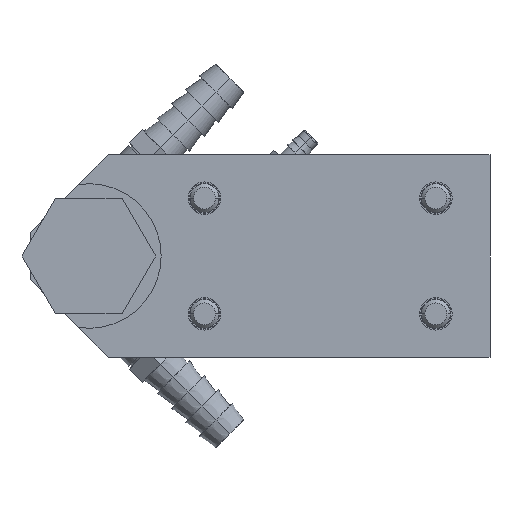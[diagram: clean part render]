
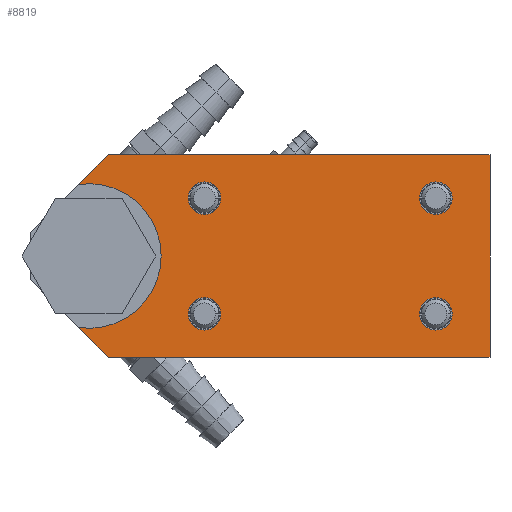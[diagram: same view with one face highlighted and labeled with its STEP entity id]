
A CAD part, left-side view. The second image highlights one B-rep face of the part: STEP entity #8819.
In plain terms, the highlighted planar face has unit normal (-1, 0, 0).
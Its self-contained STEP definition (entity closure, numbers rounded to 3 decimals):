
#8424=CARTESIAN_POINT('',(-3.313,-1.141,0.5));
#8425=VERTEX_POINT('',#8424);
#8434=CARTESIAN_POINT('',(-3.313,-0.859,0.5));
#8435=VERTEX_POINT('',#8434);
#8436=CARTESIAN_POINT('',(-3.313,-1.,0.5));
#8437=DIRECTION('',(1.0,0.0,0.0));
#8438=DIRECTION('',(0.0,-1.0,0.0));
#8439=AXIS2_PLACEMENT_3D('',#8436,#8437,#8438);
#8440=CIRCLE('',#8439,0.141);
#8441=EDGE_CURVE('',#8435,#8425,#8440,.T.);
#8466=CARTESIAN_POINT('',(-3.313,-3.141,0.5));
#8467=VERTEX_POINT('',#8466);
#8476=CARTESIAN_POINT('',(-3.313,-2.859,0.5));
#8477=VERTEX_POINT('',#8476);
#8478=CARTESIAN_POINT('',(-3.313,-3.0,0.5));
#8479=DIRECTION('',(1.0,0.0,0.0));
#8480=DIRECTION('',(0.0,-1.0,0.0));
#8481=AXIS2_PLACEMENT_3D('',#8478,#8479,#8480);
#8482=CIRCLE('',#8481,0.141);
#8483=EDGE_CURVE('',#8477,#8467,#8482,.T.);
#8508=CARTESIAN_POINT('',(-3.313,-3.141,-0.5));
#8509=VERTEX_POINT('',#8508);
#8518=CARTESIAN_POINT('',(-3.313,-2.859,-0.5));
#8519=VERTEX_POINT('',#8518);
#8520=CARTESIAN_POINT('',(-3.313,-3.0,-0.5));
#8521=DIRECTION('',(1.0,0.0,0.0));
#8522=DIRECTION('',(0.0,-1.0,0.0));
#8523=AXIS2_PLACEMENT_3D('',#8520,#8521,#8522);
#8524=CIRCLE('',#8523,0.141);
#8525=EDGE_CURVE('',#8519,#8509,#8524,.T.);
#8550=CARTESIAN_POINT('',(-3.313,-1.141,-0.5));
#8551=VERTEX_POINT('',#8550);
#8560=CARTESIAN_POINT('',(-3.313,-0.859,-0.5));
#8561=VERTEX_POINT('',#8560);
#8562=CARTESIAN_POINT('',(-3.313,-1.,-0.5));
#8563=DIRECTION('',(1.0,0.0,0.0));
#8564=DIRECTION('',(0.0,-1.0,0.0));
#8565=AXIS2_PLACEMENT_3D('',#8562,#8563,#8564);
#8566=CIRCLE('',#8565,0.141);
#8567=EDGE_CURVE('',#8561,#8551,#8566,.T.);
#8592=CARTESIAN_POINT('',(-3.313,0.088,-0.619));
#8593=VERTEX_POINT('',#8592);
#8610=CARTESIAN_POINT('',(-3.313,-0.168,-0.875));
#8611=VERTEX_POINT('',#8610);
#8618=CARTESIAN_POINT('',(-3.313,-0.168,-0.875));
#8619=DIRECTION('',(0.0,0.707,0.707));
#8620=VECTOR('',#8619,0.362);
#8621=LINE('',#8618,#8620);
#8622=EDGE_CURVE('',#8611,#8593,#8621,.T.);
#8721=CARTESIAN_POINT('',(-3.313,0.088,0.619));
#8722=VERTEX_POINT('',#8721);
#8723=CARTESIAN_POINT('',(-3.313,0.0,0.));
#8724=DIRECTION('',(1.0,0.0,0.0));
#8725=DIRECTION('',(0.0,-1.0,0.0));
#8726=AXIS2_PLACEMENT_3D('',#8723,#8724,#8725);
#8727=CIRCLE('',#8726,0.625);
#8728=EDGE_CURVE('',#8722,#8593,#8727,.T.);
#8740=CARTESIAN_POINT('',(-3.313,-1.597,0.));
#8741=DIRECTION('',(1.0,0.0,0.0));
#8742=DIRECTION('',(0.0,-1.0,0.0));
#8743=AXIS2_PLACEMENT_3D('',#8740,#8741,#8742);
#8744=PLANE('',#8743);
#8745=ORIENTED_EDGE('',*,*,#8622,.F.);
#8746=CARTESIAN_POINT('',(-3.313,-3.467,-0.875));
#8747=VERTEX_POINT('',#8746);
#8748=CARTESIAN_POINT('',(-3.313,-3.467,-0.875));
#8749=DIRECTION('',(0.0,1.0,0.0));
#8750=VECTOR('',#8749,3.3);
#8751=LINE('',#8748,#8750);
#8752=EDGE_CURVE('',#8747,#8611,#8751,.T.);
#8753=ORIENTED_EDGE('',*,*,#8752,.F.);
#8754=CARTESIAN_POINT('',(-3.313,-3.467,0.875));
#8755=VERTEX_POINT('',#8754);
#8756=CARTESIAN_POINT('',(-3.313,-3.467,0.875));
#8757=DIRECTION('',(0.0,0.0,-1.0));
#8758=VECTOR('',#8757,1.75);
#8759=LINE('',#8756,#8758);
#8760=EDGE_CURVE('',#8755,#8747,#8759,.T.);
#8761=ORIENTED_EDGE('',*,*,#8760,.F.);
#8762=CARTESIAN_POINT('',(-3.313,-0.168,0.875));
#8763=VERTEX_POINT('',#8762);
#8764=CARTESIAN_POINT('',(-3.313,-0.168,0.875));
#8765=DIRECTION('',(0.0,-1.0,0.0));
#8766=VECTOR('',#8765,3.3);
#8767=LINE('',#8764,#8766);
#8768=EDGE_CURVE('',#8763,#8755,#8767,.T.);
#8769=ORIENTED_EDGE('',*,*,#8768,.F.);
#8770=CARTESIAN_POINT('',(-3.313,0.088,0.619));
#8771=DIRECTION('',(0.0,-0.707,0.707));
#8772=VECTOR('',#8771,0.362);
#8773=LINE('',#8770,#8772);
#8774=EDGE_CURVE('',#8722,#8763,#8773,.T.);
#8775=ORIENTED_EDGE('',*,*,#8774,.F.);
#8776=ORIENTED_EDGE('',*,*,#8728,.T.);
#8777=EDGE_LOOP('',(#8745,#8753,#8761,#8769,#8775,#8776));
#8778=FACE_OUTER_BOUND('',#8777,.T.);
#8779=ORIENTED_EDGE('',*,*,#8567,.T.);
#8780=CARTESIAN_POINT('',(-3.313,-1.,-0.5));
#8781=DIRECTION('',(1.0,0.0,0.0));
#8782=DIRECTION('',(0.0,-1.0,0.0));
#8783=AXIS2_PLACEMENT_3D('',#8780,#8781,#8782);
#8784=CIRCLE('',#8783,0.141);
#8785=EDGE_CURVE('',#8551,#8561,#8784,.T.);
#8786=ORIENTED_EDGE('',*,*,#8785,.T.);
#8787=EDGE_LOOP('',(#8779,#8786));
#8788=FACE_BOUND('',#8787,.T.);
#8789=ORIENTED_EDGE('',*,*,#8525,.T.);
#8790=CARTESIAN_POINT('',(-3.313,-3.0,-0.5));
#8791=DIRECTION('',(1.0,0.0,0.0));
#8792=DIRECTION('',(0.0,-1.0,0.0));
#8793=AXIS2_PLACEMENT_3D('',#8790,#8791,#8792);
#8794=CIRCLE('',#8793,0.141);
#8795=EDGE_CURVE('',#8509,#8519,#8794,.T.);
#8796=ORIENTED_EDGE('',*,*,#8795,.T.);
#8797=EDGE_LOOP('',(#8789,#8796));
#8798=FACE_BOUND('',#8797,.T.);
#8799=ORIENTED_EDGE('',*,*,#8483,.T.);
#8800=CARTESIAN_POINT('',(-3.313,-3.0,0.5));
#8801=DIRECTION('',(1.0,0.0,0.0));
#8802=DIRECTION('',(0.0,-1.0,0.0));
#8803=AXIS2_PLACEMENT_3D('',#8800,#8801,#8802);
#8804=CIRCLE('',#8803,0.141);
#8805=EDGE_CURVE('',#8467,#8477,#8804,.T.);
#8806=ORIENTED_EDGE('',*,*,#8805,.T.);
#8807=EDGE_LOOP('',(#8799,#8806));
#8808=FACE_BOUND('',#8807,.T.);
#8809=ORIENTED_EDGE('',*,*,#8441,.T.);
#8810=CARTESIAN_POINT('',(-3.313,-1.,0.5));
#8811=DIRECTION('',(1.0,0.0,0.0));
#8812=DIRECTION('',(0.0,-1.0,0.0));
#8813=AXIS2_PLACEMENT_3D('',#8810,#8811,#8812);
#8814=CIRCLE('',#8813,0.141);
#8815=EDGE_CURVE('',#8425,#8435,#8814,.T.);
#8816=ORIENTED_EDGE('',*,*,#8815,.T.);
#8817=EDGE_LOOP('',(#8809,#8816));
#8818=FACE_BOUND('',#8817,.T.);
#8819=ADVANCED_FACE('',(#8778,#8788,#8798,#8808,#8818),#8744,.F.);
